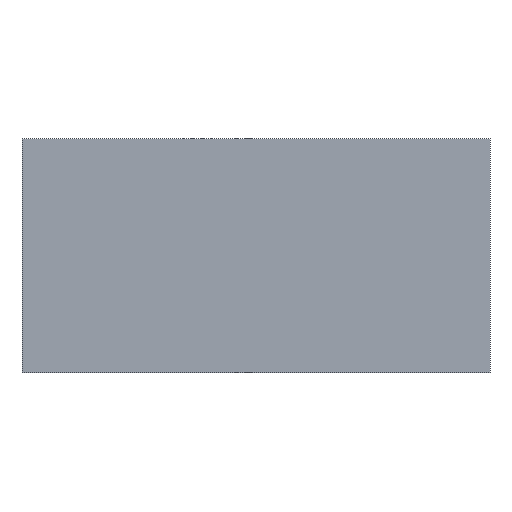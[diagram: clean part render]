
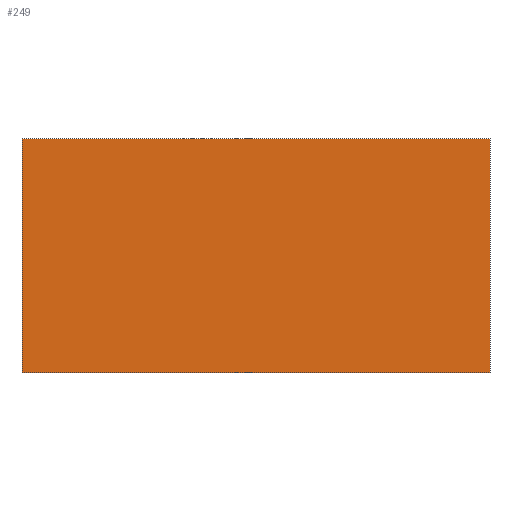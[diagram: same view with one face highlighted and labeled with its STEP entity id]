
A CAD part, front view. The second image highlights one B-rep face of the part: STEP entity #249.
In plain terms, the highlighted planar face has unit normal (0, -1, 0).
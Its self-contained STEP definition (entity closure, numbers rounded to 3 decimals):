
#21=FACE_OUTER_BOUND('',#35,.T.);
#35=EDGE_LOOP('',(#189,#190,#191,#192));
#46=LINE('',#358,#79);
#62=LINE('',#390,#95);
#63=LINE('',#392,#96);
#64=LINE('',#393,#97);
#79=VECTOR('',#296,10.);
#95=VECTOR('',#320,10.);
#96=VECTOR('',#321,10.);
#97=VECTOR('',#322,10.);
#112=VERTEX_POINT('',#355);
#113=VERTEX_POINT('',#357);
#125=VERTEX_POINT('',#389);
#126=VERTEX_POINT('',#391);
#134=EDGE_CURVE('',#112,#113,#46,.T.);
#150=EDGE_CURVE('',#125,#112,#62,.T.);
#151=EDGE_CURVE('',#126,#125,#63,.T.);
#152=EDGE_CURVE('',#113,#126,#64,.T.);
#189=ORIENTED_EDGE('',*,*,#150,.F.);
#190=ORIENTED_EDGE('',*,*,#151,.F.);
#191=ORIENTED_EDGE('',*,*,#152,.F.);
#192=ORIENTED_EDGE('',*,*,#134,.F.);
#236=PLANE('',#282);
#249=ADVANCED_FACE('',(#21),#236,.T.);
#282=AXIS2_PLACEMENT_3D('',#388,#318,#319);
#296=DIRECTION('',(-1.,0.,0.));
#318=DIRECTION('center_axis',(0.,-1.,0.));
#319=DIRECTION('ref_axis',(1.,0.,0.));
#320=DIRECTION('',(0.,0.,-1.));
#321=DIRECTION('',(1.,0.,0.));
#322=DIRECTION('',(0.,0.,1.));
#355=CARTESIAN_POINT('',(30.,-25.,-15.));
#357=CARTESIAN_POINT('',(-30.,-25.,-15.));
#358=CARTESIAN_POINT('',(-30.,-25.,-15.));
#388=CARTESIAN_POINT('Origin',(-30.,-25.,0.));
#389=CARTESIAN_POINT('',(30.,-25.,15.));
#390=CARTESIAN_POINT('',(30.,-25.,0.));
#391=CARTESIAN_POINT('',(-30.,-25.,15.));
#392=CARTESIAN_POINT('',(-30.,-25.,15.));
#393=CARTESIAN_POINT('',(-30.,-25.,0.));
